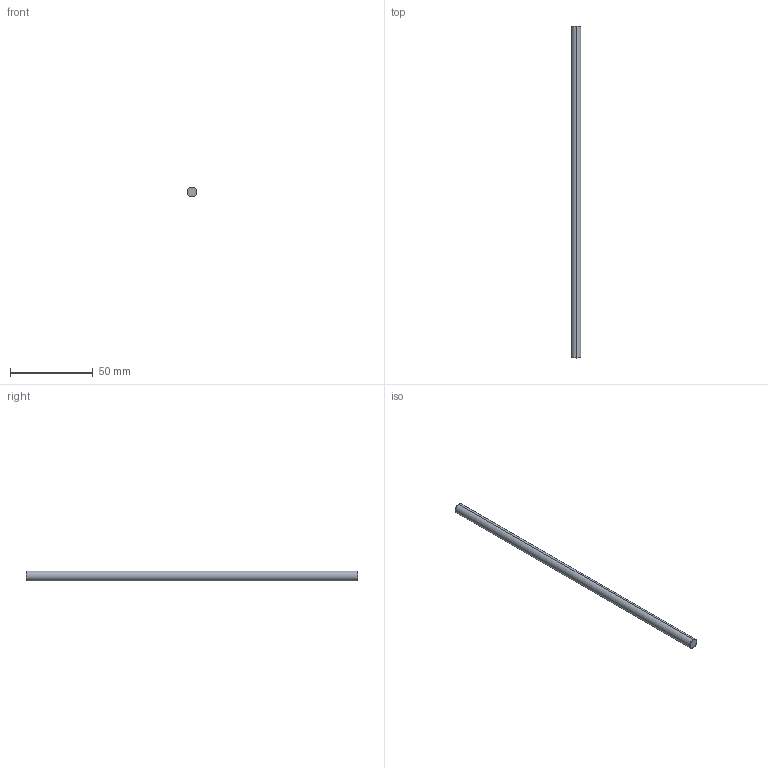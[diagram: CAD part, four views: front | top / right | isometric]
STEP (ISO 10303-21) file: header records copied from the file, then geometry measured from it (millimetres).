
FILE_DESCRIPTION (( 'STEP AP203' ), '1' );
FILE_NAME ('2100-0006-0200.STEP', '2018-02-12T21:29:35', ( '' ), ( '' ), 'SwSTEP 2.0', 'SolidWorks 2016', '' );
FILE_SCHEMA (( 'CONFIG_CONTROL_DESIGN' ));
Length unit declared in the file: millimetre
Products named in the file (1): 2100-0006-0200
Bounding box: 6 x 200 x 6 mm (x, y, z)
Volume: 5654.6 mm3; surface area: 3823.7 mm2
Topology: 1 solids, 1 shells, 8 faces, 14 edges, 8 vertices
Faces by surface type: cone 4, cylinder 2, plane 2
Entity records: 271 total; most frequent: DIRECTION 40, CARTESIAN_POINT 31, ORIENTED_EDGE 28, AXIS2_PLACEMENT_3D 17, EDGE_CURVE 14, CIRCLE 8, EDGE_LOOP 8, ADVANCED_FACE 8
